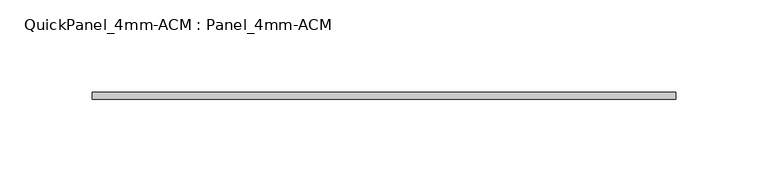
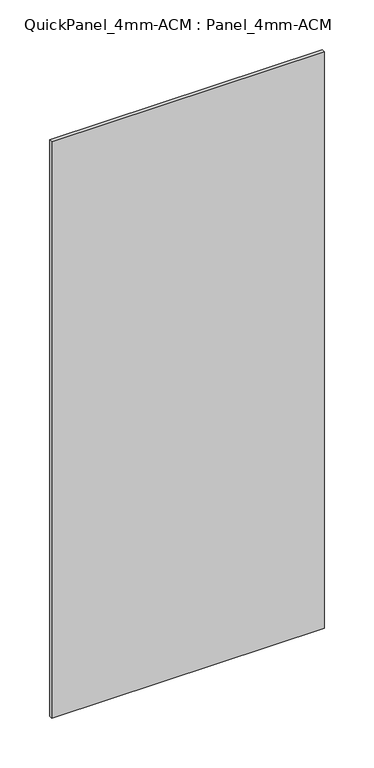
"""IFC4 building model written with IfcOpenShell, lengths in millimetres: plate geometry, QuickPanel_4mm-ACM : Panel_4mm-ACM."""

import ifcopenshell
import ifcopenshell.guid

model = None  # the IFC model being written
_history = None  # IfcOwnerHistory: only IFC2X3 demands one
_inside = {}  # id of a spatial element -> (the spatial element, [elements in it])
_under = {}  # id of a project, library or spatial element -> (it, [spatial elements below it])
_declared = {}  # id of a project -> (the project, [libraries it declares])
_typed = {}  # id of a type object -> (the type object, [elements of that type])
_made_of = {}  # id of a material, layer set ... -> (it, [elements and type objects made of it])


def new_model(schema):
    """Start an empty IFC model of exactly this schema.

    Asked for "IFC4X3", IfcOpenShell would pick the latest addendum, in which some entities
    have other attributes; the version numbers below select the first issue.
    IFC2X3 requires an IfcOwnerHistory on every rooted entity: one is made here for all.
    """
    global model, _history
    if schema == "IFC4X3":
        model = ifcopenshell.file(schema_version=(4, 3, 0, 0))
    else:
        model = ifcopenshell.file(schema=schema)
    _inside.clear()
    _under.clear()
    _declared.clear()
    _typed.clear()
    _made_of.clear()
    _history = None
    if model.schema == "IFC2X3":
        org = make("IfcOrganization", Name="unknown")
        user = make(
            "IfcPersonAndOrganization",
            ThePerson=make("IfcPerson", FamilyName="unknown"),
            TheOrganization=org,
        )
        app = make(
            "IfcApplication",
            ApplicationDeveloper=org,
            Version="unknown",
            ApplicationFullName="unknown",
            ApplicationIdentifier="unknown",
        )
        _history = make(
            "IfcOwnerHistory",
            OwningUser=user,
            OwningApplication=app,
            ChangeAction="ADDED",
            CreationDate=0,
        )
    return model


def make(cls, **values):
    """One entity of the class cls with the attributes given. An attribute that is None is left unset."""
    return model.create_entity(
        cls, **{name: value for name, value in values.items() if value is not None}
    )


def rooted(cls, **values):
    """An entity with a GlobalId (a new one), such as an element, a storey or a relation."""
    return make(cls, GlobalId=ifcopenshell.guid.new(), OwnerHistory=_history, **values)


def si_unit(unit_type, name, prefix=None):
    """IfcSIUnit, for example si_unit("LENGTHUNIT", "METRE", prefix="MILLI")."""
    return make("IfcSIUnit", UnitType=unit_type, Prefix=prefix, Name=name)


def assignment(units):
    """IfcUnitAssignment: the units of a project."""
    return None if units is None else make("IfcUnitAssignment", Units=units)


def point(xyz):
    """IfcCartesianPoint."""
    return None if xyz is None else make("IfcCartesianPoint", Coordinates=xyz)


def direction(xyz):
    """IfcDirection."""
    return None if xyz is None else make("IfcDirection", DirectionRatios=xyz)


def frame(location, z_axis=None, x_axis=None):
    """IfcAxis2Placement3D, a coordinate frame: its origin and axes. An axis left out is left unset."""
    return make(
        "IfcAxis2Placement3D",
        Location=point(location),
        Axis=direction(z_axis),
        RefDirection=direction(x_axis),
    )


def origin():
    """The frame at (0, 0, 0) with its axes left unset."""
    return frame((0.0, 0.0, 0.0))


def origin_with_axes():
    """The frame at (0, 0, 0) with the z axis (0, 0, 1) and the x axis (1, 0, 0) written out."""
    return frame((0.0, 0.0, 0.0), z_axis=(0.0, 0.0, 1.0), x_axis=(1.0, 0.0, 0.0))


def place(relative_to, where):
    """IfcLocalPlacement: puts the frame where relative to a parent placement (None: the world)."""
    return make(
        "IfcLocalPlacement", PlacementRelTo=relative_to, RelativePlacement=where
    )


def context(
    kind, dimensions, precision=None, world=None, true_north=None, identifier=None
):
    """IfcGeometricRepresentationContext, for example the 3D "Model" context."""
    return make(
        "IfcGeometricRepresentationContext",
        ContextIdentifier=identifier,
        ContextType=kind,
        CoordinateSpaceDimension=dimensions,
        Precision=precision,
        WorldCoordinateSystem=world,
        TrueNorth=true_north,
    )


def project(units=None, contexts=None):
    """IfcProject with its units and contexts."""
    return rooted(
        "IfcProject",
        Name="project",
        RepresentationContexts=contexts,
        UnitsInContext=assignment(units),
    )


def spatial(cls, under=None, at=None, **own):
    """A site, building, storey or space (cls), placed at a placement, below another one or the project."""
    s = rooted(cls, ObjectPlacement=at, **own)
    if under is not None:
        _under.setdefault(under.id(), (under, []))[1].append(s)
    return s


def polyline(points):
    """IfcPolyline through the points."""
    return make("IfcPolyline", Points=[point(p) for p in points])


def outline(outer, holes=None, kind="AREA"):
    """IfcArbitraryClosedProfileDef: a profile drawn as a closed curve; with holes, ...WithVoids."""
    if holes is None:
        return make("IfcArbitraryClosedProfileDef", ProfileType=kind, OuterCurve=outer)
    return make(
        "IfcArbitraryProfileDefWithVoids",
        ProfileType=kind,
        OuterCurve=outer,
        InnerCurves=holes,
    )


def extrude(swept, where, along, depth):
    """IfcExtrudedAreaSolid: the profile swept, set in the frame where, extruded along a direction by depth."""
    return make(
        "IfcExtrudedAreaSolid",
        SweptArea=swept,
        Position=where,
        ExtrudedDirection=direction(along),
        Depth=depth,
    )


def shape(context_of_items, identifier, shape_type, items):
    """IfcShapeRepresentation: the items that make up one representation, for example the "Body"."""
    return make(
        "IfcShapeRepresentation",
        ContextOfItems=context_of_items,
        RepresentationIdentifier=identifier,
        RepresentationType=shape_type,
        Items=items,
    )


def source(mapping_origin, context_of_items, identifier, shape_type, items):
    """IfcRepresentationMap: a shape defined once, which mapped items show again and again."""
    return make(
        "IfcRepresentationMap",
        MappingOrigin=mapping_origin,
        MappedRepresentation=shape(context_of_items, identifier, shape_type, items),
    )


def transform(
    local_origin,
    x_axis=None,
    y_axis=None,
    z_axis=None,
    scale=None,
    scale2=None,
    scale3=None,
    uniform=True,
):
    """IfcCartesianTransformationOperator3D, or its non-uniform kind. x_axis, y_axis, z_axis: its Axis1, 2, 3."""
    if uniform:
        return make(
            "IfcCartesianTransformationOperator3D",
            Axis1=direction(x_axis),
            Axis2=direction(y_axis),
            LocalOrigin=point(local_origin),
            Scale=scale,
            Axis3=direction(z_axis),
        )
    return make(
        "IfcCartesianTransformationOperator3DnonUniform",
        Axis1=direction(x_axis),
        Axis2=direction(y_axis),
        LocalOrigin=point(local_origin),
        Scale=scale,
        Axis3=direction(z_axis),
        Scale2=scale2,
        Scale3=scale3,
    )


def mapped(mapping_source, mapping_target):
    """IfcMappedItem: shows the shape of a source again, moved by a transform."""
    return make(
        "IfcMappedItem", MappingSource=mapping_source, MappingTarget=mapping_target
    )


def made_of(thing, what):
    """Note that an element or type object is made of a material, layer set ...; save() writes the relation."""
    if what is not None:
        _made_of.setdefault(what.id(), (what, []))[1].append(thing)
    return thing


def element(
    cls,
    number,
    at=None,
    inside=None,
    cuts=None,
    type_object=None,
    material=None,
    context=None,
    identifier="Body",
    shape_type=None,
    held_by="IfcProductDefinitionShape",
    body=None,
    shapes=None,
    **own,
):
    """One element of the class cls, such as IfcWall. Its Tag is "e" and its number.

    at: its placement. inside: the storey or other place that contains it. cuts: it is an
    opening in that element (IfcRelVoidsElement). A single representation is given by context,
    identifier, shape_type and body (its items); several are given by shapes. held_by: the class
    of the entity that holds the representations. save() writes the other relations.
    """
    e = rooted(cls, Tag="e%d" % number, ObjectPlacement=at, **own)
    if body is not None:
        shapes = [shape(context, identifier, shape_type, body)]
    if shapes is not None:
        e.Representation = make(held_by, Representations=shapes)
    if inside is not None:
        _inside.setdefault(inside.id(), (inside, []))[1].append(e)
    if cuts is not None:
        rooted(
            "IfcRelVoidsElement", RelatingBuildingElement=cuts, RelatedOpeningElement=e
        )
    if type_object is not None:
        _typed.setdefault(type_object.id(), (type_object, []))[1].append(e)
    return made_of(e, material)


def aggregate(whole, parts):
    """IfcRelAggregates: a whole, such as a stair, and the parts it consists of."""
    return rooted("IfcRelAggregates", RelatingObject=whole, RelatedObjects=parts)


def save(model, path):
    """Write the relations noted so far, then the file.

    IfcRelAggregates (storeys below a building ...), IfcRelContainedInSpatialStructure (elements
    in a storey), IfcRelDefinesByType, IfcRelAssociatesMaterial and IfcRelDeclares: one each for
    every whole, place, type object, material and project.
    """
    for whole, parts in _under.values():
        aggregate(whole, parts)
    for where, things in _inside.values():
        rooted(
            "IfcRelContainedInSpatialStructure",
            RelatedElements=things,
            RelatingStructure=where,
        )
    for kind, things in _typed.values():
        rooted("IfcRelDefinesByType", RelatedObjects=things, RelatingType=kind)
    for what, things in _made_of.values():
        rooted("IfcRelAssociatesMaterial", RelatedObjects=things, RelatingMaterial=what)
    for by, libraries in _declared.values():
        rooted("IfcRelDeclares", RelatingContext=by, RelatedDefinitions=libraries)
    model.write(path)


def quickpanel_4mm_acm_panel_4mm_acm_898fefb8(model_context):
    return source(origin(), model_context, "Body", "SweptSolid", [
        extrude(outline(polyline([(-158.4062543, -6.096), (158.4062543, -6.096), (158.4062543, -9.906), (-158.4062543, -9.906), (-158.4062543, -6.096)])), origin_with_axes(), (0.0, 0.0, 1.0), 708.2898236),
    ])


if __name__ == "__main__":
    model = new_model("IFC4")
    model_context = context("Model", 3, world=origin())
    ifc_project = project(units=[si_unit("LENGTHUNIT", "METRE", prefix="MILLI")], contexts=[model_context])
    site = spatial("IfcSite", under=ifc_project)
    building = spatial("IfcBuilding", under=site)
    placement = place(None, origin())
    quickpanel_4mm_acm_panel_4mm_acm_shape = quickpanel_4mm_acm_panel_4mm_acm_898fefb8(model_context)
    element("IfcPlate", 1, ObjectType="QuickPanel_4mm-ACM : Panel_4mm-ACM", at=placement, inside=building, context=model_context, shape_type="MappedRepresentation", body=[
        mapped(quickpanel_4mm_acm_panel_4mm_acm_shape, transform((0.0, 0.0, 0.0), x_axis=(1.0, 0.0, 0.0), y_axis=(0.0, 1.0, 0.0), z_axis=(0.0, 0.0, 1.0))),
    ])
    save(model, "model.ifc")
